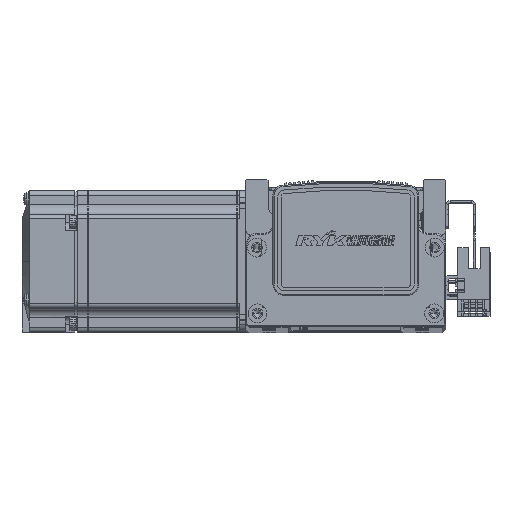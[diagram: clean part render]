
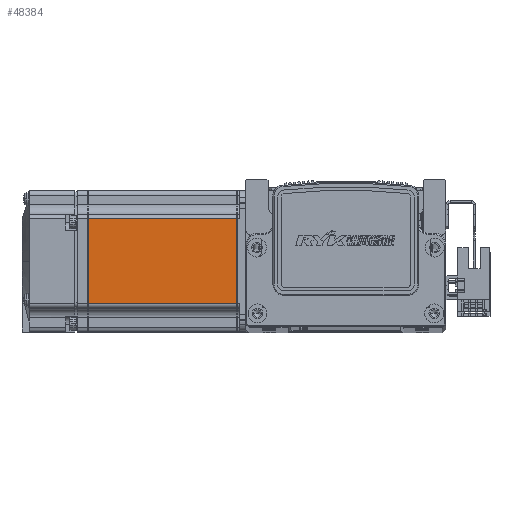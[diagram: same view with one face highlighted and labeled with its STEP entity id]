
A CAD part, top view. The second image highlights one B-rep face of the part: STEP entity #48384.
In plain terms, the highlighted planar face has unit normal (0, 0, 1) as drawn and (0, 0, -1) by its records, which use the part's own axes.
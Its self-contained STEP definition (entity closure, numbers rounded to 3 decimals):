
#3201 = CARTESIAN_POINT ( 'NONE',  ( -70.95, 18., -30. ) ) ;
#3224 = CARTESIAN_POINT ( 'NONE',  ( -7.75, 18., -30. ) ) ;
#3246 = CARTESIAN_POINT ( 'NONE',  ( -70.95, -18., -30. ) ) ;
#3247 = CARTESIAN_POINT ( 'NONE',  ( -7.75, -18., -30. ) ) ;
#5423 = VERTEX_POINT ( 'NONE', #3201 ) ;
#5449 = VERTEX_POINT ( 'NONE', #3246 ) ;
#5450 = VERTEX_POINT ( 'NONE', #3247 ) ;
#5460 = VERTEX_POINT ( 'NONE', #3224 ) ;
#11959 = ORIENTED_EDGE ( 'NONE', *, *, #64583, .T. ) ;
#11966 = ORIENTED_EDGE ( 'NONE', *, *, #64568, .T. ) ;
#12030 = ORIENTED_EDGE ( 'NONE', *, *, #64500, .T. ) ;
#12078 = ORIENTED_EDGE ( 'NONE', *, *, #64463, .T. ) ;
#12295 = AXIS2_PLACEMENT_3D ( 'NONE', #76378, #76416, #76403 ) ;
#23327 = DIRECTION ( 'NONE',  ( 0., 1., 0. ) ) ;
#23391 = CARTESIAN_POINT ( 'NONE',  ( -70.95, 25., -30. ) ) ;
#23574 = CARTESIAN_POINT ( 'NONE',  ( -6.5, -18., -30. ) ) ;
#23576 = DIRECTION ( 'NONE',  ( -1., 0., 0. ) ) ;
#30243 = FACE_OUTER_BOUND ( 'NONE', #44187, .T. ) ;
#37688 = DIRECTION ( 'NONE',  ( 0., -1., 0. ) ) ;
#37703 = CARTESIAN_POINT ( 'NONE',  ( -7.75, 25., -30. ) ) ;
#37712 = DIRECTION ( 'NONE',  ( 1., 0., 0. ) ) ;
#37730 = CARTESIAN_POINT ( 'NONE',  ( -6.5, 18., -30. ) ) ;
#44187 = EDGE_LOOP ( 'NONE', ( #11966, #12030, #12078, #11959 ) ) ;
#48384 = ADVANCED_FACE ( 'NONE', ( #30243 ), #76391, .T. ) ;
#61614 = LINE ( 'NONE', #23391, #61698 ) ;
#61698 = VECTOR ( 'NONE', #23327, 1000. ) ;
#61734 = LINE ( 'NONE', #23574, #61736 ) ;
#61736 = VECTOR ( 'NONE', #23576, 1000. ) ;
#61950 = LINE ( 'NONE', #37703, #61964 ) ;
#61964 = VECTOR ( 'NONE', #37688, 1000. ) ;
#62078 = VECTOR ( 'NONE', #37712, 1000. ) ;
#62110 = LINE ( 'NONE', #37730, #62078 ) ;
#64463 = EDGE_CURVE ( 'NONE', #5449, #5423, #61614, .T. ) ;
#64500 = EDGE_CURVE ( 'NONE', #5450, #5449, #61734, .T. ) ;
#64568 = EDGE_CURVE ( 'NONE', #5460, #5450, #61950, .T. ) ;
#64583 = EDGE_CURVE ( 'NONE', #5423, #5460, #62110, .T. ) ;
#76378 = CARTESIAN_POINT ( 'NONE',  ( -6.5, 25., -30. ) ) ;
#76391 = PLANE ( 'NONE',  #12295 ) ;
#76403 = DIRECTION ( 'NONE',  ( -1., 0., 0. ) ) ;
#76416 = DIRECTION ( 'NONE',  ( 0., 0., -1. ) ) ;
